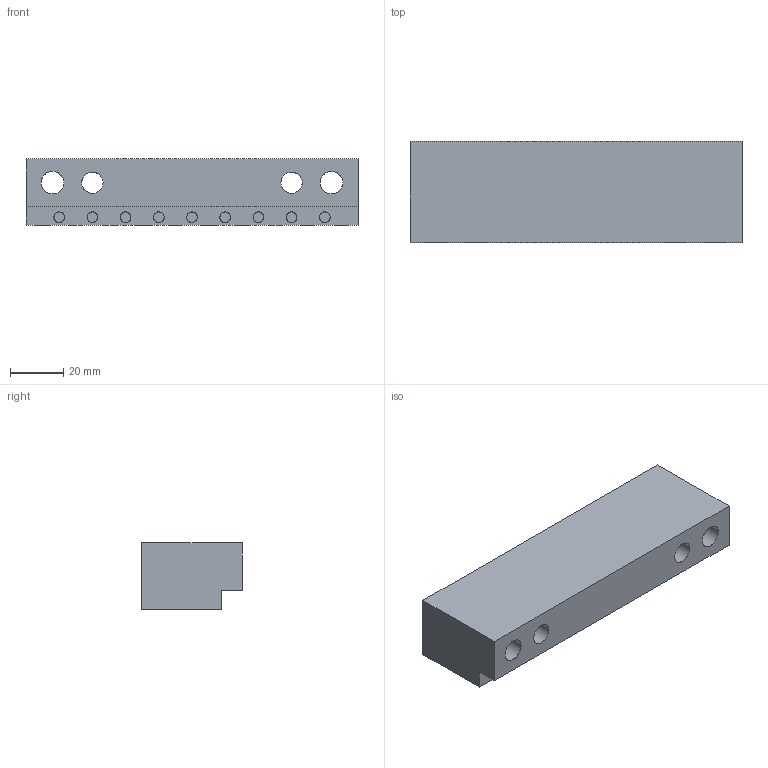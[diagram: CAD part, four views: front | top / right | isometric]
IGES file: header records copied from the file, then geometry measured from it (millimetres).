
Start section: START RECORD GO HERE.
Global section: file name: G40638125.igs; native system: DASSAULT SYSTEMES CATIA V5 R20 - www.3ds.com; preprocessor: CATIA Version 5 Release 20 ; author: r.borello; organization: CFTORINO; date: 20190624.150743; units: millimetre
Bounding box: 125 x 38 x 25 mm (x, y, z)
Surface area: 24631.6 mm2 (no closed solid volume)
Topology: 0 solids, 0 shells, 372 faces, 1570 edges, 1392 vertices
Faces by surface type: revolution 324, plane 48
